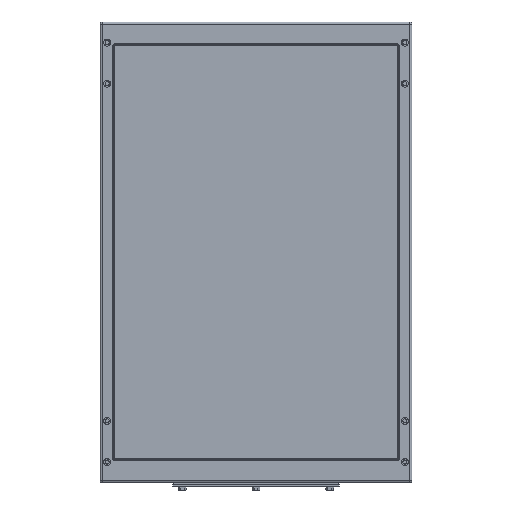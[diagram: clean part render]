
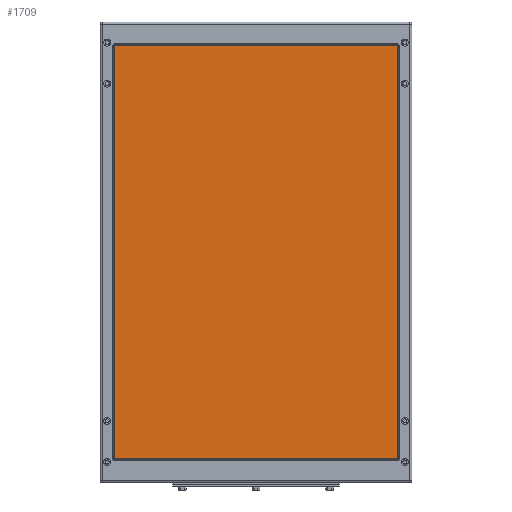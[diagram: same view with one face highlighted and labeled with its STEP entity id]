
A CAD part, front view. The second image highlights one B-rep face of the part: STEP entity #1709.
In plain terms, the highlighted planar face has unit normal (0, -1, 0).
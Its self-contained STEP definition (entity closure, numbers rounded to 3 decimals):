
#301=LINE('',#9851,#581);
#302=LINE('',#9854,#582);
#303=LINE('',#9856,#583);
#304=LINE('',#9858,#584);
#581=VECTOR('',#7774,1.);
#582=VECTOR('',#7775,1.);
#583=VECTOR('',#7776,1.);
#584=VECTOR('',#7777,1.);
#1305=FACE_BOUND('',#2703,.T.);
#1306=FACE_BOUND('',#2704,.T.);
#1307=FACE_BOUND('',#2705,.T.);
#1308=FACE_BOUND('',#2706,.T.);
#1309=FACE_BOUND('',#2707,.T.);
#1709=ADVANCED_FACE('',(#1305,#1306,#1307,#1308,#1309),#2107,.T.);
#2107=PLANE('',#6657);
#2703=EDGE_LOOP('',(#3584));
#2704=EDGE_LOOP('',(#3585));
#2705=EDGE_LOOP('',(#3586));
#2706=EDGE_LOOP('',(#3587));
#2707=EDGE_LOOP('',(#3588,#3589,#3590,#3591));
#3584=ORIENTED_EDGE('',*,*,#5530,.T.);
#3585=ORIENTED_EDGE('',*,*,#5531,.T.);
#3586=ORIENTED_EDGE('',*,*,#5532,.T.);
#3587=ORIENTED_EDGE('',*,*,#5533,.T.);
#3588=ORIENTED_EDGE('',*,*,#5534,.F.);
#3589=ORIENTED_EDGE('',*,*,#5535,.F.);
#3590=ORIENTED_EDGE('',*,*,#5536,.F.);
#3591=ORIENTED_EDGE('',*,*,#5537,.F.);
#4942=VERTEX_POINT('',#9844);
#4943=VERTEX_POINT('',#9846);
#4944=VERTEX_POINT('',#9848);
#4945=VERTEX_POINT('',#9850);
#4946=VERTEX_POINT('',#9852);
#4947=VERTEX_POINT('',#9853);
#4948=VERTEX_POINT('',#9855);
#4949=VERTEX_POINT('',#9857);
#5530=EDGE_CURVE('',#4942,#4942,#6174,.T.);
#5531=EDGE_CURVE('',#4943,#4943,#6175,.T.);
#5532=EDGE_CURVE('',#4944,#4944,#6176,.T.);
#5533=EDGE_CURVE('',#4945,#4945,#6177,.T.);
#5534=EDGE_CURVE('',#4946,#4947,#301,.T.);
#5535=EDGE_CURVE('',#4948,#4946,#302,.T.);
#5536=EDGE_CURVE('',#4949,#4948,#303,.T.);
#5537=EDGE_CURVE('',#4947,#4949,#304,.T.);
#6174=CIRCLE('',#6653,4.2);
#6175=CIRCLE('',#6654,4.2);
#6176=CIRCLE('',#6655,4.2);
#6177=CIRCLE('',#6656,4.2);
#6653=AXIS2_PLACEMENT_3D('',#9843,#7766,#7767);
#6654=AXIS2_PLACEMENT_3D('',#9845,#7768,#7769);
#6655=AXIS2_PLACEMENT_3D('',#9847,#7770,#7771);
#6656=AXIS2_PLACEMENT_3D('',#9849,#7772,#7773);
#6657=AXIS2_PLACEMENT_3D('',#9859,#7778,#7779);
#7766=DIRECTION('',(0.,1.,0.));
#7767=DIRECTION('',(1.,0.,0.));
#7768=DIRECTION('',(0.,1.,0.));
#7769=DIRECTION('',(1.,0.,0.));
#7770=DIRECTION('',(0.,1.,0.));
#7771=DIRECTION('',(1.,0.,0.));
#7772=DIRECTION('',(0.,1.,0.));
#7773=DIRECTION('',(1.,0.,0.));
#7774=DIRECTION('',(-1.,0.,0.));
#7775=DIRECTION('',(0.,0.,-1.));
#7776=DIRECTION('',(1.,0.,0.));
#7777=DIRECTION('',(0.,0.,1.));
#7778=DIRECTION('',(0.,-1.,0.));
#7779=DIRECTION('',(1.,0.,0.));
#9843=CARTESIAN_POINT('',(238.,209.,433.));
#9844=CARTESIAN_POINT('',(242.2,209.,433.));
#9845=CARTESIAN_POINT('',(-98.,209.,433.));
#9846=CARTESIAN_POINT('',(-93.8,209.,433.));
#9847=CARTESIAN_POINT('',(238.,209.,-216.));
#9848=CARTESIAN_POINT('',(242.2,209.,-216.));
#9849=CARTESIAN_POINT('',(-98.,209.,-216.));
#9850=CARTESIAN_POINT('',(-93.8,209.,-216.));
#9851=CARTESIAN_POINT('',(0.,209.,-224.5));
#9852=CARTESIAN_POINT('',(294.5,209.,-224.5));
#9853=CARTESIAN_POINT('',(-154.5,209.,-224.5));
#9854=CARTESIAN_POINT('',(294.5,209.,0.));
#9855=CARTESIAN_POINT('',(294.5,209.,441.5));
#9856=CARTESIAN_POINT('',(0.,209.,441.5));
#9857=CARTESIAN_POINT('',(-154.5,209.,441.5));
#9858=CARTESIAN_POINT('',(-154.5,209.,0.));
#9859=CARTESIAN_POINT('',(0.,209.,0.));
